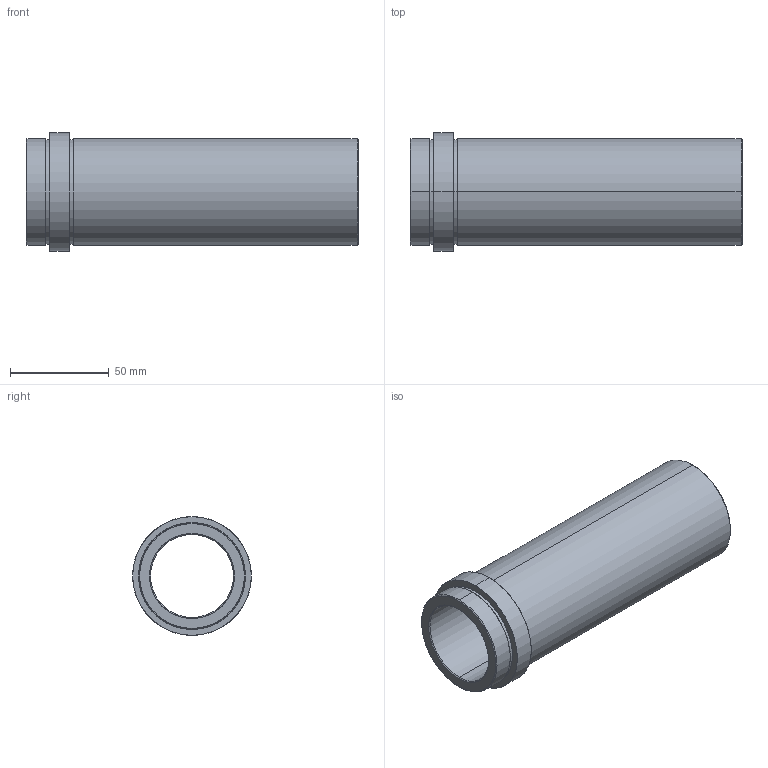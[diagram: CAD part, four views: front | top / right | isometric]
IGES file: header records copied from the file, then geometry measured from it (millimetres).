
Start section: SolidWorks IGES FILE using analytic representation for surfaces
Global section: file name: D:\zzzzz\Delta\D21\42\D21 - 42x156.IGS; native system: SolidWorks 2004 by SolidWorks Corporation; preprocessor: Version 5.3; author: Hkn; date: 080326.193631; units: millimetre
Bounding box: 168 x 60 x 60 mm (x, y, z)
Surface area: 53887 mm2 (no closed solid volume)
Topology: 0 solids, 0 shells, 26 faces, 848 edges, 848 vertices
Faces by surface type: revolution 20, bspline 6
